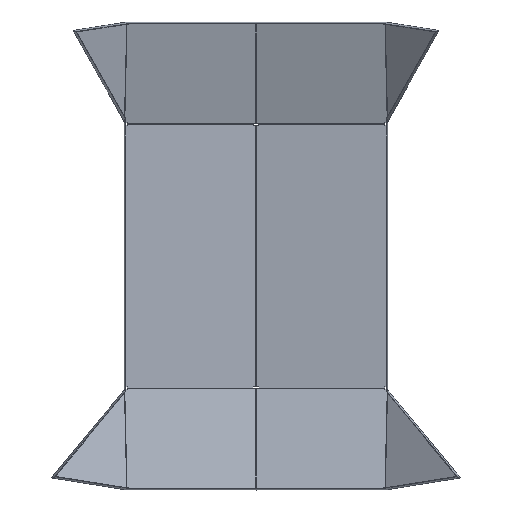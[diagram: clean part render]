
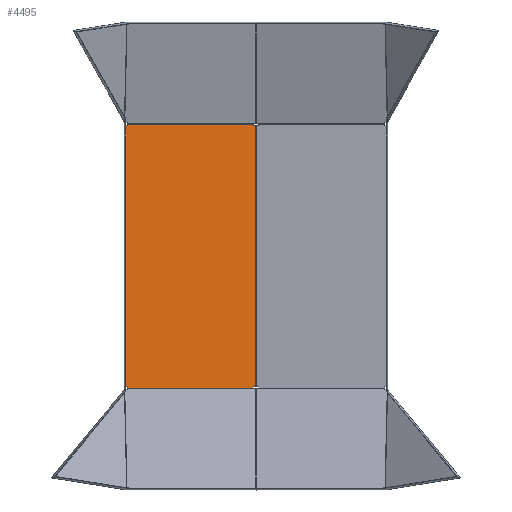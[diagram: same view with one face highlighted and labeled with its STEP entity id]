
A CAD part, top view. The second image highlights one B-rep face of the part: STEP entity #4495.
In plain terms, the highlighted free-form (B-spline) face has degree [1, 1] with [2, 2] control points.
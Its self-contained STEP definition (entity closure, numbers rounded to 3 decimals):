
#363=CARTESIAN_POINT('',(-9.831,-495.0,2.366));
#364=VERTEX_POINT('',#363);
#395=CARTESIAN_POINT('',(-0.218,-495.0,1.525));
#396=VERTEX_POINT('',#395);
#404=CARTESIAN_POINT('',(-9.831,-495.,2.366));
#405=DIRECTION('',(0.996,0.0,-0.087));
#406=VECTOR('',#405,9.65);
#407=LINE('',#404,#406);
#408=EDGE_CURVE('',#364,#396,#407,.T.);
#444=CARTESIAN_POINT('',(-9.831,-499.473,2.366));
#445=VERTEX_POINT('',#444);
#446=CARTESIAN_POINT('',(-9.831,-499.473,2.366));
#447=DIRECTION('',(0.0,1.0,0.0));
#448=VECTOR('',#447,4.473);
#449=LINE('',#446,#448);
#450=EDGE_CURVE('',#445,#364,#449,.T.);
#3469=CARTESIAN_POINT('',(-493.982,495.,44.724));
#3470=VERTEX_POINT('',#3469);
#3549=CARTESIAN_POINT('',(-488.005,495.,44.201));
#3550=VERTEX_POINT('',#3549);
#3559=CARTESIAN_POINT('',(-488.005,495.,44.201));
#3560=DIRECTION('',(-0.996,0.0,0.087));
#3561=VECTOR('',#3560,6.);
#3562=LINE('',#3559,#3561);
#3563=EDGE_CURVE('',#3550,#3470,#3562,.T.);
#3697=CARTESIAN_POINT('',(-488.005,499.473,44.201));
#3698=VERTEX_POINT('',#3697);
#3699=CARTESIAN_POINT('',(-488.005,499.473,44.201));
#3700=DIRECTION('',(0.0,-1.0,0.0));
#3701=VECTOR('',#3700,4.473);
#3702=LINE('',#3699,#3701);
#3703=EDGE_CURVE('',#3698,#3550,#3702,.T.);
#4404=CARTESIAN_POINT('',(-0.218,495.0,1.525));
#4405=VERTEX_POINT('',#4404);
#4406=CARTESIAN_POINT('',(-0.218,-495.0,1.525));
#4407=DIRECTION('',(0.0,1.0,0.0));
#4408=VECTOR('',#4407,990.0);
#4409=LINE('',#4406,#4408);
#4410=EDGE_CURVE('',#396,#4405,#4409,.T.);
#4431=CARTESIAN_POINT('',(-0.218,499.473,1.525));
#4432=CARTESIAN_POINT('',(-493.982,499.473,44.724));
#4433=CARTESIAN_POINT('',(-0.218,-499.473,1.525));
#4434=CARTESIAN_POINT('',(-493.982,-499.473,44.724));
#4435=B_SPLINE_SURFACE_WITH_KNOTS('',1,1,((#4431,#4433),(#4432,#4434)),.UNSPECIFIED.,.F.,.F.,.U.,(2,2),(2,2),(0.0,495.65),(0.0,998.947),.UNSPECIFIED.);
#4436=ORIENTED_EDGE('',*,*,#4410,.T.);
#4437=CARTESIAN_POINT('',(-9.831,495.0,2.366));
#4438=VERTEX_POINT('',#4437);
#4439=CARTESIAN_POINT('',(-0.218,495.,1.525));
#4440=DIRECTION('',(-0.996,0.0,0.087));
#4441=VECTOR('',#4440,9.65);
#4442=LINE('',#4439,#4441);
#4443=EDGE_CURVE('',#4405,#4438,#4442,.T.);
#4444=ORIENTED_EDGE('',*,*,#4443,.T.);
#4445=CARTESIAN_POINT('',(-9.831,499.473,2.366));
#4446=VERTEX_POINT('',#4445);
#4447=CARTESIAN_POINT('',(-9.831,495.,2.366));
#4448=DIRECTION('',(0.0,1.0,0.0));
#4449=VECTOR('',#4448,4.473);
#4450=LINE('',#4447,#4449);
#4451=EDGE_CURVE('',#4438,#4446,#4450,.T.);
#4452=ORIENTED_EDGE('',*,*,#4451,.T.);
#4453=CARTESIAN_POINT('',(-488.005,499.473,44.201));
#4454=DIRECTION('',(0.996,0.,-0.087));
#4455=VECTOR('',#4454,480.);
#4456=LINE('',#4453,#4455);
#4457=EDGE_CURVE('',#3698,#4446,#4456,.T.);
#4458=ORIENTED_EDGE('',*,*,#4457,.F.);
#4459=ORIENTED_EDGE('',*,*,#3703,.T.);
#4460=ORIENTED_EDGE('',*,*,#3563,.T.);
#4461=CARTESIAN_POINT('',(-493.982,-495.,44.724));
#4462=VERTEX_POINT('',#4461);
#4463=CARTESIAN_POINT('',(-493.982,-495.,44.724));
#4464=DIRECTION('',(0.0,1.0,0.0));
#4465=VECTOR('',#4464,990.);
#4466=LINE('',#4463,#4465);
#4467=EDGE_CURVE('',#4462,#3470,#4466,.T.);
#4468=ORIENTED_EDGE('',*,*,#4467,.F.);
#4469=CARTESIAN_POINT('',(-488.005,-495.,44.201));
#4470=VERTEX_POINT('',#4469);
#4471=CARTESIAN_POINT('',(-493.982,-495.,44.724));
#4472=DIRECTION('',(0.996,0.,-0.087));
#4473=VECTOR('',#4472,6.);
#4474=LINE('',#4471,#4473);
#4475=EDGE_CURVE('',#4462,#4470,#4474,.T.);
#4476=ORIENTED_EDGE('',*,*,#4475,.T.);
#4477=CARTESIAN_POINT('',(-488.005,-499.473,44.201));
#4478=VERTEX_POINT('',#4477);
#4479=CARTESIAN_POINT('',(-488.005,-495.,44.201));
#4480=DIRECTION('',(0.0,-1.0,0.0));
#4481=VECTOR('',#4480,4.473);
#4482=LINE('',#4479,#4481);
#4483=EDGE_CURVE('',#4470,#4478,#4482,.T.);
#4484=ORIENTED_EDGE('',*,*,#4483,.T.);
#4485=CARTESIAN_POINT('',(-9.831,-499.473,2.366));
#4486=DIRECTION('',(-0.996,0.,0.087));
#4487=VECTOR('',#4486,480.);
#4488=LINE('',#4485,#4487);
#4489=EDGE_CURVE('',#445,#4478,#4488,.T.);
#4490=ORIENTED_EDGE('',*,*,#4489,.F.);
#4491=ORIENTED_EDGE('',*,*,#450,.T.);
#4492=ORIENTED_EDGE('',*,*,#408,.T.);
#4493=EDGE_LOOP('',(#4436,#4444,#4452,#4458,#4459,#4460,#4468,#4476,#4484,#4490,#4491,#4492));
#4494=FACE_OUTER_BOUND('',#4493,.T.);
#4495=ADVANCED_FACE('',(#4494),#4435,.T.);
